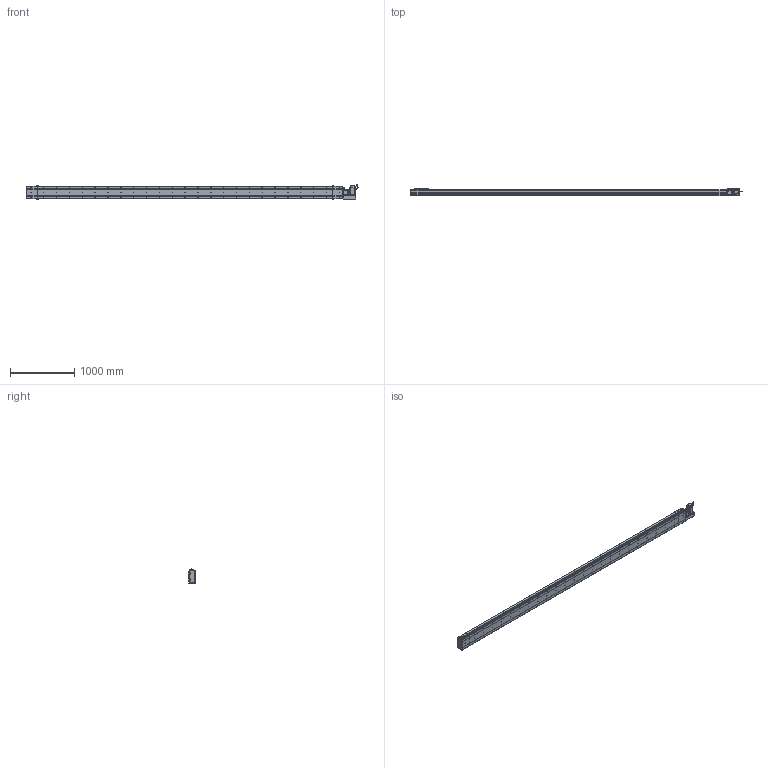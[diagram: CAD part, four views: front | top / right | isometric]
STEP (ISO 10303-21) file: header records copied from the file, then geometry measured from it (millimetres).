
FILE_DESCRIPTION (( 'STEP AP214' ), '1' );
FILE_NAME ('D20 CBH RH S4600.STEP', '2010-06-30T11:46:14', ( 'Conseil Régional Haute-Normandie' ), ( 'Conseil Régional Haute-Normandie' ), 'SwSTEP 2.0', 'SolidWorks 2010', '' );
FILE_SCHEMA (( 'AUTOMOTIVE_DESIGN' ));
Length unit declared in the file: millimetre
Products named in the file (31): Head D20 RH_Default; Corp Tail D20_Default; Corp Tail D20 RH_Default; Couvercle RH_Default; Tail D20_Default; Glissiere_Default; Chariot D20_Default; Support Chariot D20_Default; Plaque De Serrage D20 RH_Default; Couvercle S4600_Default; Plaque de Bout Head D20 RH_Default; Corp S4600_Default; Rondelle Cache D20 RH_Default; Corp D20 S4600_Default; vis M5 L47_Default; Support moteur RH_Default; Cache Support Moteur RH_Default; avant 90BLDC125A-640; Moteur motionking 90BLDC125A-640; vis M5 L30_Default; ecrou_Default; corps 90BLDC125A-640; Couvercle_Default; Conecteur_Default; Conecteur2_Default; codeur 90BLDC125-640; Plaque de Bout Tail D20_Default; vis M5 L15_Default; Plaque De Serrage D20_Default; D20 CBH RH S4600
Assembly tree (68 placements, depth 4):
  D20 CBH RH S4600
    Corp D20 S4600_Default
      Corp S4600_Default
      Couvercle S4600_Default
    Chariot D20_Default
      vis M5 L15_Default  x8
      Support Chariot D20_Default
      Glissiere_Default
      Chariot D20_Default
    Head D20 RH_Default
      Plaque De Serrage D20 RH_Default
      vis M5 L15_Default  x14
      vis M5 L47_Default  x4
      ecrou_Default  x4
      Rondelle Cache D20 RH_Default  x3
      Plaque de Bout Head D20 RH_Default
      Cache Support Moteur RH_Default
      Corp Tail D20 RH_Default
      Moteur motionking 90BLDC125A-640
        codeur 90BLDC125-640
        Conecteur2_Default
        corps 90BLDC125A-640
        avant 90BLDC125A-640
        Conecteur_Default
      vis M5 L30_Default  x4
      Couvercle RH_Default
      Support moteur RH_Default
    Tail D20_Default
      vis M5 L15_Default  x6
      Corp Tail D20_Default
      Plaque de Bout Tail D20_Default
      Couvercle_Default
      Plaque De Serrage D20_Default
Bounding box: 5165.45 x 119.5 x 229.7 mm (x, y, z)
Volume: 33350090 mm3; surface area: 6329197.4 mm2
Topology: 105 solids, 105 shells, 3934 faces, 9732 edges, 6322 vertices
Faces by surface type: plane 2167, bspline 806, cylinder 790, torus 95, cone 72, sphere 4
Entity records: 162542 total; most frequent: CARTESIAN_POINT 82820, ORIENTED_EDGE 15732, DIRECTION 12238, EDGE_CURVE 7866, VERTEX_POINT 5206, LINE 5014, VECTOR 5014, AXIS2_PLACEMENT_3D 3612
